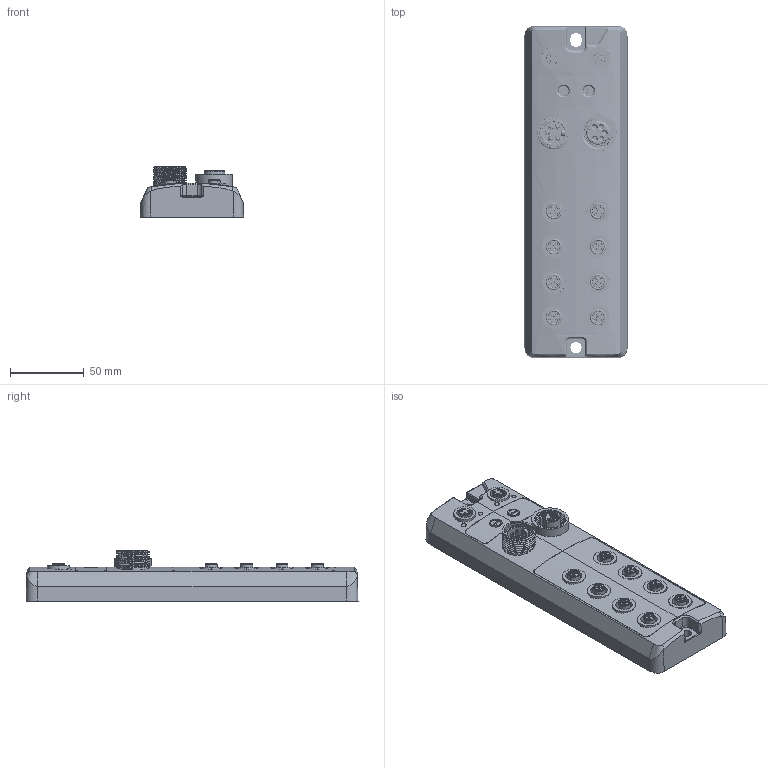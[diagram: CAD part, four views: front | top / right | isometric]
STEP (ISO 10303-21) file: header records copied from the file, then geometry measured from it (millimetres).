
FILE_DESCRIPTION((''),'2;1');
FILE_NAME('01440358-WXSTEP1','2023-02-23T',('10009682'),(''),'CREO PARAMETRIC BY PTC INC, 2015290','CREO PARAMETRIC BY PTC INC, 2015290','');
FILE_SCHEMA(('CONFIG_CONTROL_DESIGN'));
Products named in the file (1): 01440358-WXSTEP1
Bounding box: 70 x 225 x 34 mm (x, y, z)
Volume: 307981.8 mm3; surface area: 82137.3 mm2
Topology: 14 solids, 110 shells, 3565 faces, 8774 edges, 5801 vertices
Faces by surface type: plane 1639, cylinder 972, cone 536, torus 185, extrusion 136, bspline 97
Entity records: 118607 total; most frequent: CARTESIAN_POINT 34385, ORIENTED_EDGE 17548, DIRECTION 17082, EDGE_CURVE 8774, AXIS2_PLACEMENT_3D 6335, VERTEX_POINT 5801, VECTOR 4412, LINE 4276
